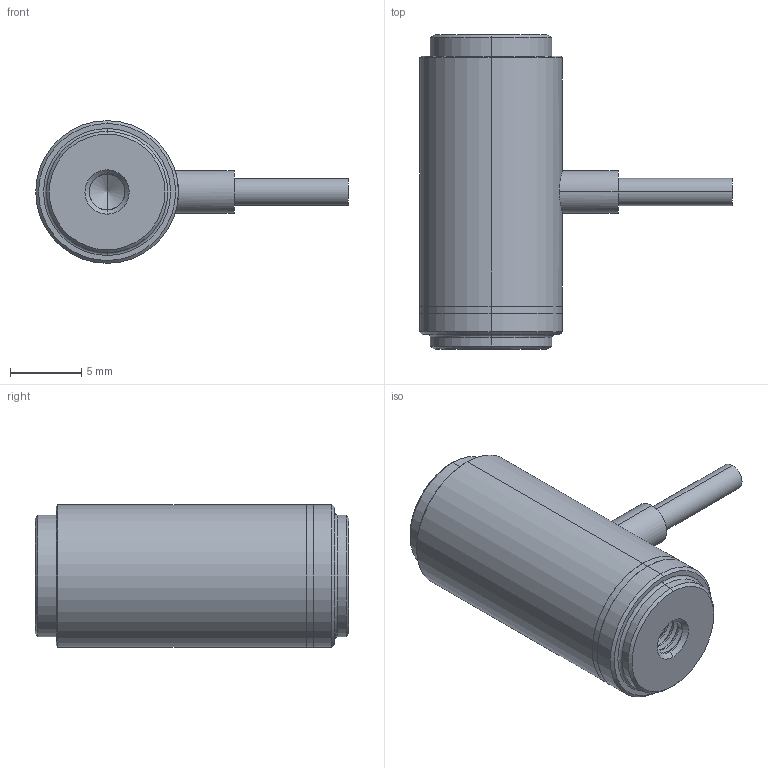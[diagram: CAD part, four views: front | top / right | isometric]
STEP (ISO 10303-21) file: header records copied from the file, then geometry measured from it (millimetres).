
FILE_DESCRIPTION (( 'STEP AP203' ), '1' );
FILE_NAME ('LCF01.STEP', '2024-07-16T04:18:48', ( '' ), ( '' ), 'SwSTEP 2.0', 'SolidWorks 2019', '' );
FILE_SCHEMA (( 'CONFIG_CONTROL_DESIGN' ));
Length unit declared in the file: millimetre
Products named in the file (1): LCF01
Bounding box: 21.9 x 22 x 10 mm (x, y, z)
Volume: 1536.9 mm3; surface area: 2042.7 mm2
Topology: 1 solids, 1 shells, 103 faces, 254 edges, 158 vertices
Faces by surface type: cylinder 64, cone 18, plane 13, bspline 6, torus 2
Entity records: 5379 total; most frequent: CARTESIAN_POINT 3140, ORIENTED_EDGE 500, DIRECTION 414, EDGE_CURVE 250, AXIS2_PLACEMENT_3D 160, VERTEX_POINT 158, EDGE_LOOP 112, ADVANCED_FACE 103
